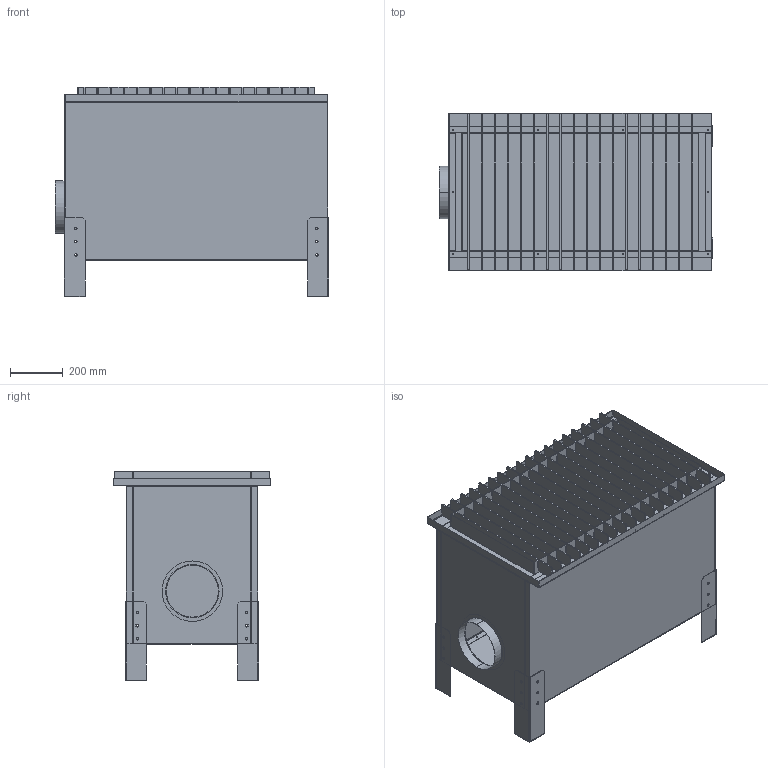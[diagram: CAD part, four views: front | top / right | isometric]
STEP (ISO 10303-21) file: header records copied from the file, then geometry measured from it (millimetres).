
FILE_DESCRIPTION(('STEP AP214'),'1');
FILE_NAME('02-004 svejsebord.stp','2017-01-18T10:27:49',(' '),(' '),'Spatial InterOp 3D',' ',' ');
FILE_SCHEMA(('automotive_design'));
Length unit declared in the file: metre
Products named in the file (13): ID_1-1; ID_1; ID_1-0; ID_1-2; ID_2; 02-004 svejsebord; ID_1-3; ID_1-4; ID_1-5; ID_1-6; ID_1-7; ID_3; ID_1-8
Assembly tree (34 placements, depth 3):
  02-004 svejsebord
    ID_1-1
      ID_1
      ID_1-0  x2
      ID_1-2  x2
      ID_2  x18
    ID_1-3
    ID_1-4
    ID_1-5
    ID_1-6
    ID_1-7
    ID_3  x4
    ID_1-8
Bounding box: 1039.12 x 600 x 797.75 mm (x, y, z)
Volume: 6914474.2 mm3; surface area: 7558697.4 mm2
Topology: 33 solids, 33 shells, 971 faces, 2568 edges, 1664 vertices
Faces by surface type: plane 595, cylinder 368, bspline 8
Entity records: 24099 total; most frequent: DIRECTION 3316, CARTESIAN_POINT 3297, ORIENTED_EDGE 3180, EDGE_CURVE 1590, AXIS2_PLACEMENT_3D 1111, LINE 1094, VECTOR 1094, VERTEX_POINT 1028
